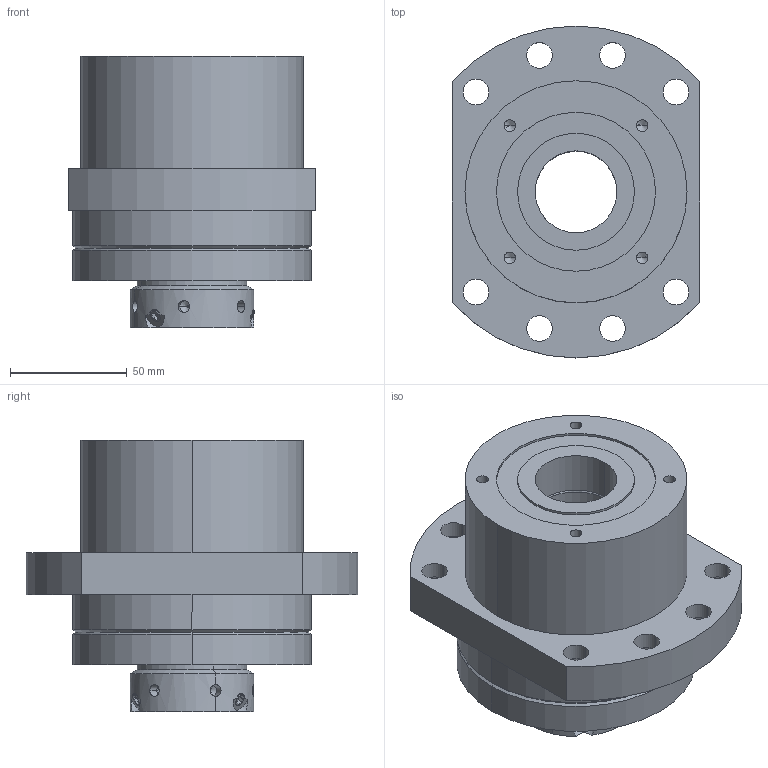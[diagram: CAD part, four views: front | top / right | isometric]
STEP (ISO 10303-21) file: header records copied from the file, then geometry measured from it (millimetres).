
FILE_DESCRIPTION (( 'STEP AP203' ), '1' );
FILE_NAME ('SWBK35-DFF.STEP', '2016-10-12T07:40:33', ( '' ), ( '' ), 'SwSTEP 2.0', 'SolidWorks 2015', '' );
FILE_SCHEMA (( 'CONFIG_CONTROL_DESIGN' ));
Length unit declared in the file: millimetre
Products named in the file (1): SWBK35-DFF
Bounding box: 106 x 142 x 116 mm (x, y, z)
Volume: 674847.6 mm3; surface area: 191470.9 mm2
Topology: 57 solids, 69 shells, 820 faces, 2023 edges, 1133 vertices
Faces by surface type: cylinder 265, plane 214, bspline 188, cone 117, torus 36
Entity records: 28245 total; most frequent: CARTESIAN_POINT 10811, DIRECTION 3656, ORIENTED_EDGE 3522, EDGE_CURVE 1761, AXIS2_PLACEMENT_3D 1538, VERTEX_POINT 1133, EDGE_LOOP 928, CIRCLE 905
